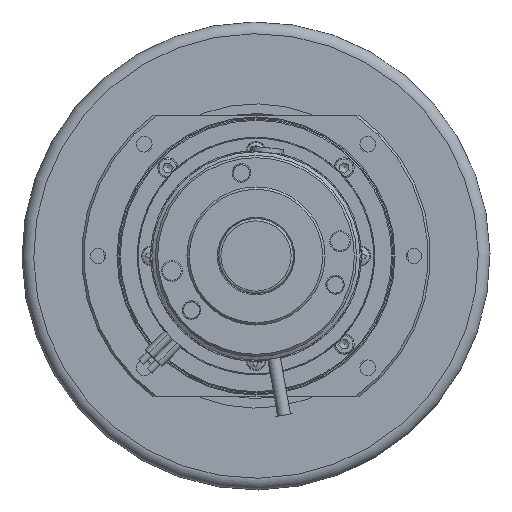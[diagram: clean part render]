
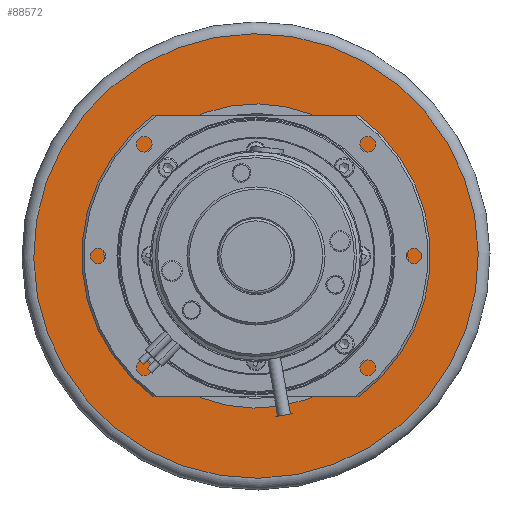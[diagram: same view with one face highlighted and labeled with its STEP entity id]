
A CAD part, left-side view. The second image highlights one B-rep face of the part: STEP entity #88572.
In plain terms, the highlighted planar face has unit normal (-1, 0, 0).
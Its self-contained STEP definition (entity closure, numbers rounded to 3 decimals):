
#1793=FACE_BOUND('',#14219,.T.);
#4963=PLANE('',#97196);
#9443=FACE_OUTER_BOUND('',#14218,.T.);
#14218=EDGE_LOOP('',(#77347));
#14219=EDGE_LOOP('',(#77348));
#18509=CIRCLE('',#97189,95.);
#18515=CIRCLE('',#97197,65.);
#40970=VERTEX_POINT('',#158249);
#40975=VERTEX_POINT('',#158263);
#53375=EDGE_CURVE('',#40970,#40970,#18509,.T.);
#53382=EDGE_CURVE('',#40975,#40975,#18515,.T.);
#77347=ORIENTED_EDGE('',*,*,#53375,.F.);
#77348=ORIENTED_EDGE('',*,*,#53382,.F.);
#88572=ADVANCED_FACE('',(#9443,#1793),#4963,.T.);
#97189=AXIS2_PLACEMENT_3D('',#158250,#121587,#121588);
#97196=AXIS2_PLACEMENT_3D('',#158262,#121602,#121603);
#97197=AXIS2_PLACEMENT_3D('',#158264,#121604,#121605);
#121587=DIRECTION('center_axis',(1.,0.,0.));
#121588=DIRECTION('ref_axis',(0.,0.186,0.983));
#121602=DIRECTION('center_axis',(-1.,0.,0.));
#121603=DIRECTION('ref_axis',(0.,0.983,-0.186));
#121604=DIRECTION('center_axis',(-1.,0.,0.));
#121605=DIRECTION('ref_axis',(0.,-0.933,-0.36));
#158249=CARTESIAN_POINT('',(-54.5,-93.34,17.683));
#158250=CARTESIAN_POINT('Origin',(-54.5,0.,0.));
#158262=CARTESIAN_POINT('Origin',(-54.5,-12.099,-63.864));
#158263=CARTESIAN_POINT('',(-54.5,-23.432,60.63));
#158264=CARTESIAN_POINT('Origin',(-54.5,0.,0.));
